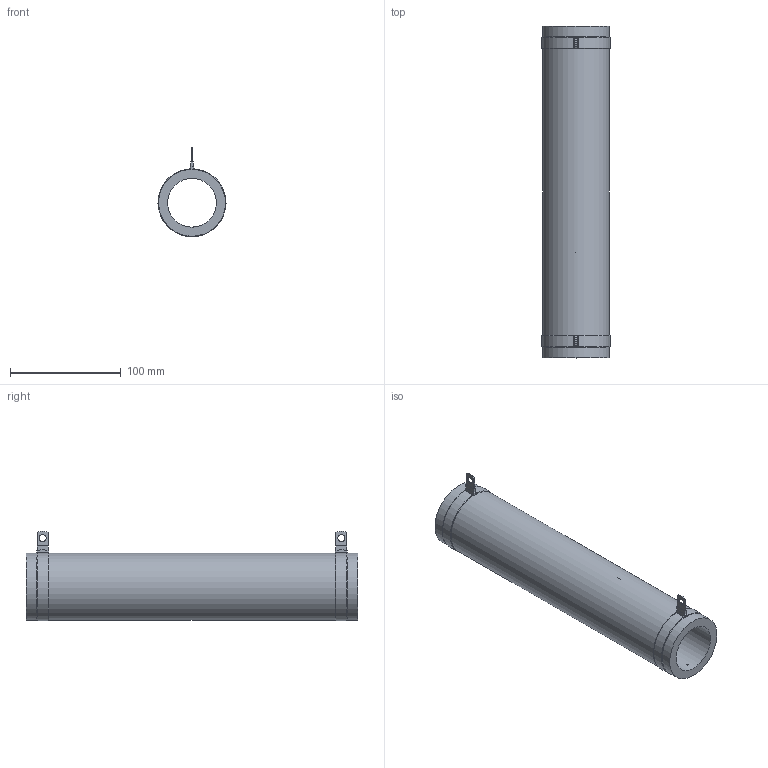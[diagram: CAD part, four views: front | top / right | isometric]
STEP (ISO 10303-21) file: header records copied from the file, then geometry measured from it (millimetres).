
FILE_DESCRIPTION(/* description */ (''),/* implementation_level */ '2;1');
FILE_NAME(/* name */ 'C:\_Vault\Dati\CATALOGO\RCA-RSA\25-1000\CA0600.stp',/* time_stamp */ '2014-01-22T15:27:01+01:00',/* author */ ('stefano'),/* organization */ (''),/* preprocessor_version */ 'ST-DEVELOPER v15.2',/* originating_system */ 'Autodesk Inventor 2014',/* authorisation */ '');
FILE_SCHEMA (('AUTOMOTIVE_DESIGN { 1 0 10303 214 3 1 1 }'));
Length unit declared in the file: millimetre
Products named in the file (1): CA0600
Bounding box: 61.47 x 300 x 81 mm (x, y, z)
Volume: 408820.8 mm3; surface area: 102371.7 mm2
Topology: 1 solids, 1 shells, 75 faces, 181 edges, 112 vertices
Faces by surface type: plane 35, cylinder 28, torus 12
Full cylindrical faces by diameter (mm): 4.2 x1, 6.3 x2, 44 x1, 60.5 x3
Entity records: 2326 total; most frequent: CARTESIAN_POINT 436, DIRECTION 388, ORIENTED_EDGE 344, EDGE_CURVE 172, AXIS2_PLACEMENT_3D 150, VERTEX_POINT 110, EDGE_LOOP 94, LINE 88
